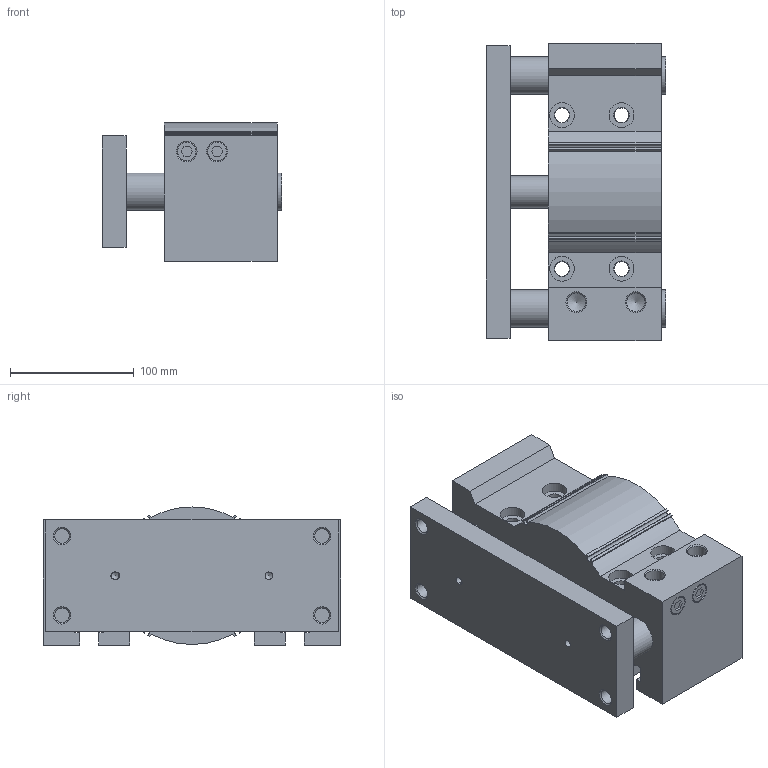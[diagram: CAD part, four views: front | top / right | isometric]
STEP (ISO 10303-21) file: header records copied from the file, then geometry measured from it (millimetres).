
FILE_DESCRIPTION(/* description */ ('STEP AP214'),/* implementation_level */ '2;1');
FILE_NAME(/* name */ 'MGPL100TF-25Z(0_0)',/* time_stamp */ '2025-09-11T07:48:45+02:00',/* author */ ('License CC BY-ND 4.0'),/* organization */ ('CADENAS'),/* preprocessor_version */ 'ST-DEVELOPER v19.3',/* originating_system */ 'PARTsolutions',/* authorisation */ ' ');
FILE_SCHEMA (('AUTOMOTIVE_DESIGN {1 0 10303 214 3 1 1}'));
Length unit declared in the file: millimetre
Products named in the file (4): MGPL100TF-25Z(0_0); MGPL100-25Z(0)_BODY; MGPL100-25Z(0)_ROD; MGP-Z_PLUG_100
Assembly tree (4 placements, depth 2):
  MGPL100TF-25Z(0_0)
    MGPL100-25Z(0)_BODY
    MGPL100-25Z(0)_ROD
    MGP-Z_PLUG_100  x2
Bounding box: 144.5 x 240 x 111.5 mm (x, y, z)
Volume: 2232481.7 mm3; surface area: 295630.5 mm2
Topology: 4 solids, 4 shells, 200 faces, 484 edges, 308 vertices
Faces by surface type: plane 104, cylinder 58, cone 38
Full cylindrical faces by diameter (mm): 6 x6, 11.835 x12, 12.5 x4, 14.95 x4, 16.662 x2, 20 x4, 26 x2, 30 x4, 100 x2
Entity records: 5165 total; most frequent: DIRECTION 892, CARTESIAN_POINT 849, ORIENTED_EDGE 734, EDGE_CURVE 367, AXIS2_PLACEMENT_3D 332, FACE_BOUND 312, EDGE_LOOP 298, VERTEX_POINT 289
